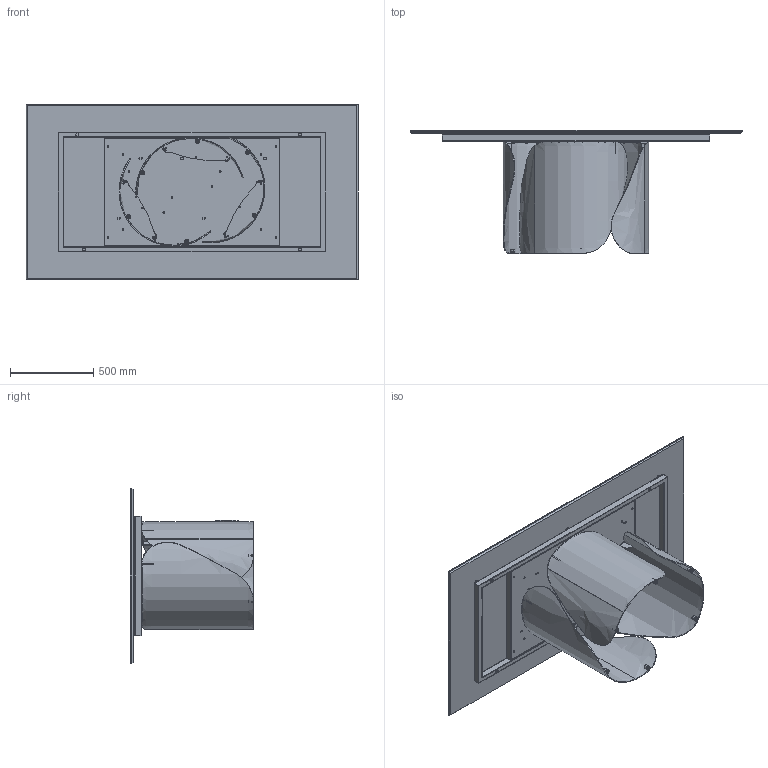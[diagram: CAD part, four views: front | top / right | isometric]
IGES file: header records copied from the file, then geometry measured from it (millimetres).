
Start section: SolidWorks IGES file using analytic representation for surfaces
Global section: file name: Y:\eforma\TECNICO\SOLIDWORKS\E-FORMA\1-TAVOLI\ONDA\02 parts\ON21C.IGS; native system: SolidWorks 2022; preprocessor: SolidWorks 2022; author: eforma.tech; date: 240806.155011; units: millimetre
Bounding box: 2000 x 742 x 1060 mm (x, y, z)
Volume: 46637492.5 mm3; surface area: 14842511.5 mm2
Topology: 64 solids, 64 shells, 1565 faces, 3545 edges, 2138 vertices
Faces by surface type: revolution 913, plane 592, bspline 60
